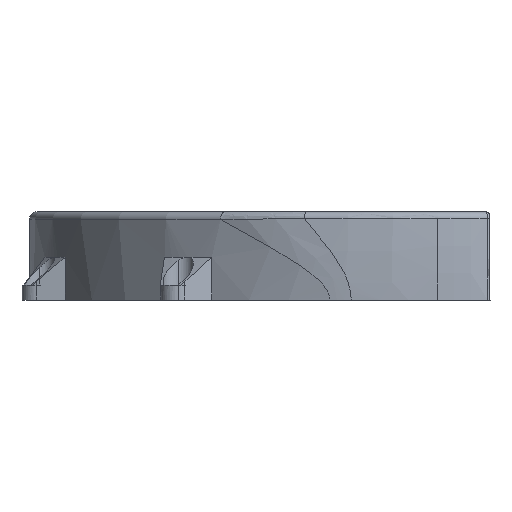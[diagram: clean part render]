
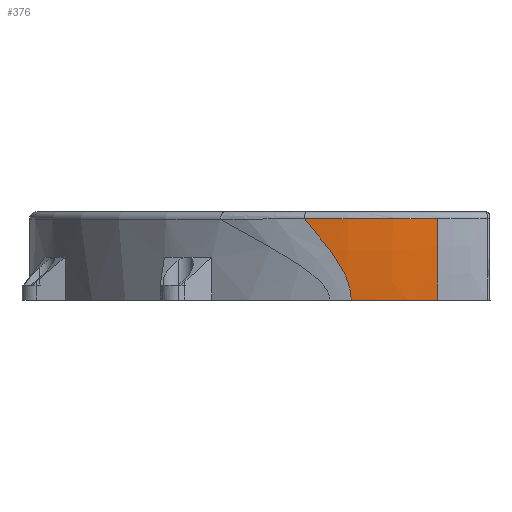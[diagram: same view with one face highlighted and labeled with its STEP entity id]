
A CAD part, left-side view. The second image highlights one B-rep face of the part: STEP entity #376.
In plain terms, the highlighted toroidal (fillet/blend) face has major radius 50 mm and minor radius 150 mm.
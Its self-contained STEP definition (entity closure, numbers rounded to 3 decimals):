
#376 = ADVANCED_FACE ( 'NONE', ( #9202 ), #1139, .T. ) ;
#385 = EDGE_CURVE ( 'NONE', #8749, #5996, #4226, .T. ) ;
#562 = DIRECTION ( 'NONE',  ( 0., 0., 1. ) ) ;
#1070 = DIRECTION ( 'NONE',  ( 0., -1., 0. ) ) ;
#1113 = CARTESIAN_POINT ( 'NONE',  ( -77.213, 20.083, 9.478 ) ) ;
#1139 = TOROIDAL_SURFACE ( 'NONE', #3301, -50., 150. ) ;
#1291 = AXIS2_PLACEMENT_3D ( 'NONE', #7021, #562, #7783 ) ;
#1795 = ORIENTED_EDGE ( 'NONE', *, *, #385, .F. ) ;
#2002 = DIRECTION ( 'NONE',  ( -1., 0., 0. ) ) ;
#2482 = DIRECTION ( 'NONE',  ( 0., 0., -1. ) ) ;
#2567 = EDGE_CURVE ( 'NONE', #3745, #5996, #5450, .T. ) ;
#2609 = CARTESIAN_POINT ( 'NONE',  ( -79.74, -0.887, 0. ) ) ;
#3142 = EDGE_LOOP ( 'NONE', ( #1795, #8416, #3395, #9037 ) ) ;
#3241 = CARTESIAN_POINT ( 'NONE',  ( -75.283, 25.526, 16.162 ) ) ;
#3292 = DIRECTION ( 'NONE',  ( 0., 0., -1. ) ) ;
#3298 = EDGE_CURVE ( 'NONE', #8749, #7777, #9234, .T. ) ;
#3301 = AXIS2_PLACEMENT_3D ( 'NONE', #9152, #3292, #2002 ) ;
#3339 = CARTESIAN_POINT ( 'NONE',  ( 20.26, -0.887, 16.162 ) ) ;
#3383 = CARTESIAN_POINT ( 'NONE',  ( -78.262, 16.241, 0. ) ) ;
#3395 = ORIENTED_EDGE ( 'NONE', *, *, #4925, .T. ) ;
#3745 = VERTEX_POINT ( 'NONE', #7023 ) ;
#4060 = CARTESIAN_POINT ( 'NONE',  ( -77.822, 17.967, 6.122 ) ) ;
#4226 = CIRCLE ( 'NONE', #8677, 150. ) ;
#4529 = B_SPLINE_CURVE_WITH_KNOTS ( 'NONE', 3,
 ( #3241, #7705, #6324, #7039, #6280, #5597, #1113, #9246, #7082, #4060, #8524, #4885, #9193, #8475, #5550, #8374, #7747, #3383 ),
 .UNSPECIFIED., .F., .F.,
 ( 4, 2, 2, 2, 2, 2, 2, 2, 4 ),
 ( 0.002, 0.007, 0.009, 0.011, 0.014, 0.016, 0.019, 0.02, 0.021 ),
 .UNSPECIFIED. ) ;
#4885 = CARTESIAN_POINT ( 'NONE',  ( -78.083, 16.967, 3.934 ) ) ;
#4925 = EDGE_CURVE ( 'NONE', #7777, #3745, #4529, .T. ) ;
#5450 = CIRCLE ( 'NONE', #1291, 100. ) ;
#5550 = CARTESIAN_POINT ( 'NONE',  ( -78.233, 16.362, 1.616 ) ) ;
#5597 = CARTESIAN_POINT ( 'NONE',  ( -77.068, 20.55, 10.119 ) ) ;
#5996 = VERTEX_POINT ( 'NONE', #2609 ) ;
#6280 = CARTESIAN_POINT ( 'NONE',  ( -76.76, 21.505, 11.376 ) ) ;
#6324 = CARTESIAN_POINT ( 'NONE',  ( -76.079, 23.48, 13.815 ) ) ;
#6375 = DIRECTION ( 'NONE',  ( 0., 0., -1. ) ) ;
#7021 = CARTESIAN_POINT ( 'NONE',  ( 20.26, -0.887, 0. ) ) ;
#7023 = CARTESIAN_POINT ( 'NONE',  ( -78.262, 16.241, 0. ) ) ;
#7039 = CARTESIAN_POINT ( 'NONE',  ( -76.597, 21.994, 11.992 ) ) ;
#7045 = CARTESIAN_POINT ( 'NONE',  ( 70.26, -0.887, 0. ) ) ;
#7082 = CARTESIAN_POINT ( 'NONE',  ( -77.602, 18.761, 7.499 ) ) ;
#7705 = CARTESIAN_POINT ( 'NONE',  ( -75.698, 24.498, 14.998 ) ) ;
#7747 = CARTESIAN_POINT ( 'NONE',  ( -78.262, 16.241, 0.406 ) ) ;
#7777 = VERTEX_POINT ( 'NONE', #7961 ) ;
#7783 = DIRECTION ( 'NONE',  ( 1., 0., 0. ) ) ;
#7848 = AXIS2_PLACEMENT_3D ( 'NONE', #3339, #2482, #9253 ) ;
#7961 = CARTESIAN_POINT ( 'NONE',  ( -75.283, 25.526, 16.162 ) ) ;
#8374 = CARTESIAN_POINT ( 'NONE',  ( -78.256, 16.266, 0.813 ) ) ;
#8416 = ORIENTED_EDGE ( 'NONE', *, *, #3298, .T. ) ;
#8475 = CARTESIAN_POINT ( 'NONE',  ( -78.215, 16.433, 2.01 ) ) ;
#8524 = CARTESIAN_POINT ( 'NONE',  ( -77.919, 17.601, 5.414 ) ) ;
#8677 = AXIS2_PLACEMENT_3D ( 'NONE', #7045, #1070, #6375 ) ;
#8749 = VERTEX_POINT ( 'NONE', #8981 ) ;
#8981 = CARTESIAN_POINT ( 'NONE',  ( -78.867, -0.887, 16.162 ) ) ;
#9037 = ORIENTED_EDGE ( 'NONE', *, *, #2567, .T. ) ;
#9152 = CARTESIAN_POINT ( 'NONE',  ( 20.26, -0.887, 0. ) ) ;
#9193 = CARTESIAN_POINT ( 'NONE',  ( -78.148, 16.706, 3.178 ) ) ;
#9202 = FACE_OUTER_BOUND ( 'NONE', #3142, .T. ) ;
#9234 = CIRCLE ( 'NONE', #7848, 99.127 ) ;
#9246 = CARTESIAN_POINT ( 'NONE',  ( -77.48, 19.188, 8.168 ) ) ;
#9253 = DIRECTION ( 'NONE',  ( -1., 0., 0. ) ) ;
